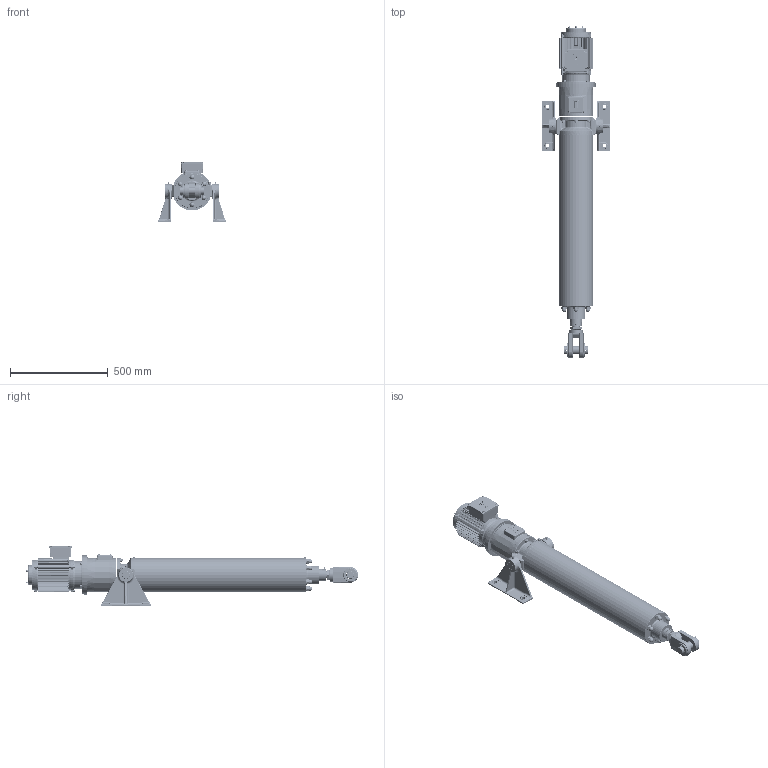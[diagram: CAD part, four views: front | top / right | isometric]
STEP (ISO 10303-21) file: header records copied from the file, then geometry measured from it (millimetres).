
FILE_DESCRIPTION( ( '153-599-4' ), '1' );
FILE_NAME( 'C:/daten/bearbeitung katalogbilder/RBs rendern/austausch pomplun/mit identnr/T1A7-0600-160-187-3.stp', 'Unknown', ( 'Christoph Hahmann' ), ( 'RACO-ELEKTRO-MASCHINEN GmbH' ), 'PSStep 17.0.49', 'Solid Edge ST 7', ' ' );
FILE_SCHEMA( ( 'AUTOMOTIVE_DESIGN { 1 0 10303 214 1 1 1 1 }' ) );
Length unit declared in the file: millimetre
Products named in the file (12): Assem1; 02.14-07-0600; 03.01-07 kpl; 01.15-07-0600; 02.01-07 kpl; 01.74-07; 01.01-07-gabelkkopf 133-277-52; 04.01-05-7-147; 100-127-2; 03.65-07-2Füße; 10.02-04-08 105-983-12; BGR 6-7
Assembly tree (11 placements, depth 2):
  Assem1
    02.14-07-0600
    03.01-07 kpl
    01.15-07-0600
    02.01-07 kpl
    01.74-07
    01.01-07-gabelkkopf 133-277-52
    04.01-05-7-147
    100-127-2
    03.65-07-2Füße
    10.02-04-08 105-983-12
    BGR 6-7
Bounding box: 350 x 1695.8 x 309 mm (x, y, z)
Surface area: 2298243.4 mm2 (no closed solid volume)
Topology: 0 solids, 7019 shells, 7019 faces, 36174 edges, 35201 vertices
Faces by surface type: plane 3341, cylinder 1611, bspline 718, cone 524, torus 363, sphere 283, extrusion 173, revolution 6
Full cylindrical faces by diameter (mm): 1.6 x2, 2 x1, 2.459 x12, 3 x4, 3.242 x16, 4 x3, 4.02 x4, 4.134 x19, 4.5 x2, 4.773 x6, 4.917 x7, 5 x12, 5.3 x3, 5.4 x4, 5.5 x8, 5.7 x7, 6 x14, 6.647 x9, 7 x11, 7.33 x1, 7.5 x3, 8 x7, 8.15 x1, 8.2 x1, 8.376 x4, 8.4 x2, 8.566 x1, 8.9 x4, 9.15 x7, 10 x25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
Entity records: 524222 total; most frequent: CARTESIAN_POINT 207295, DIRECTION 55539, VERTEX_POINT 34833, ORIENTED_EDGE 34770, EDGE_CURVE 34770, AXIS2_PLACEMENT_3D 19475, VECTOR 16583, LINE 16410
